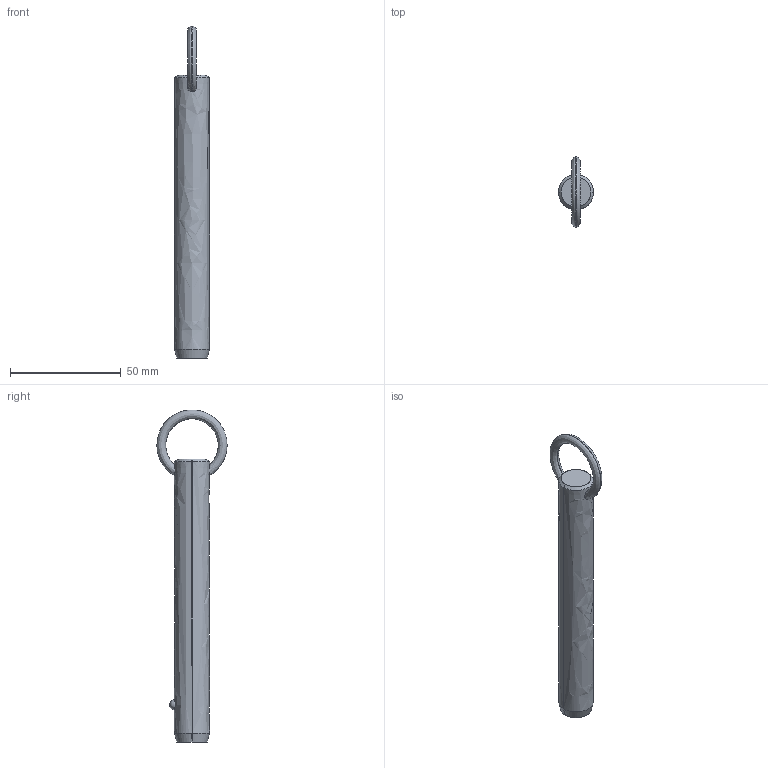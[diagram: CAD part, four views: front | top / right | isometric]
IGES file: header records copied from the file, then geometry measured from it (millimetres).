
Start section: SolidWorks IGES file using analytic representation for surfaces
Global section: file name: C:\Users\liam_\OneDrive\Documents\WORK\Work for WixRoyd\Job Files\J-00019 - Matt Davis CAD Checking\04. CAD Drawings\automotion20190605\P1250.2_v2\P1250.2_v2_20190729_IGES\P1250.062-390.igs; native system: SolidWorks 2017; preprocessor: SolidWorks 2017; author: liam_; date: 190729.233635; units: millimetre
Bounding box: 15.8 x 31.7 x 149.8 mm (x, y, z)
Surface area: 7507.6 mm2 (no closed solid volume)
Topology: 0 solids, 0 shells, 12 faces, 292 edges, 290 vertices
Faces by surface type: revolution 8, bspline 4
